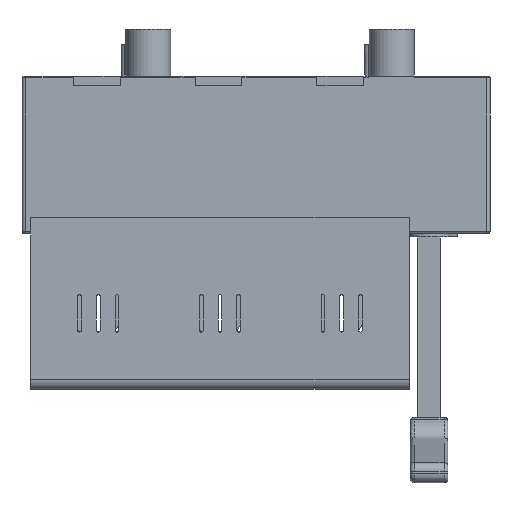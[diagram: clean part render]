
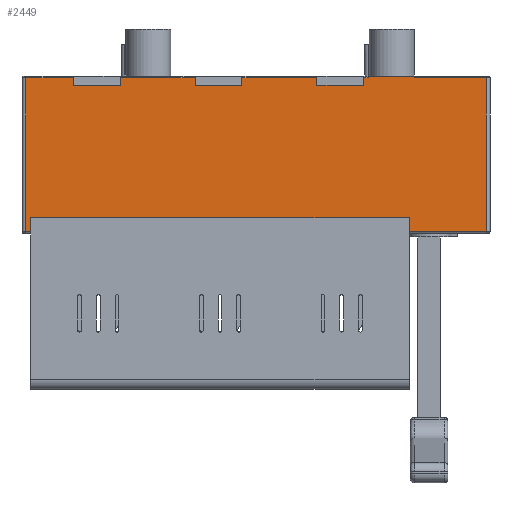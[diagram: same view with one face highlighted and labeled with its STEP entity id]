
A CAD part, front view. The second image highlights one B-rep face of the part: STEP entity #2449.
In plain terms, the highlighted planar face has unit normal (0, -1, 0).
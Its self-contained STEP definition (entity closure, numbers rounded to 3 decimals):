
#2449=ADVANCED_FACE('',(#4024),#3092,.T.);
#3092=PLANE('',#21107);
#4024=FACE_OUTER_BOUND('',#5207,.T.);
#5207=EDGE_LOOP('',(#10568,#10569,#10570,#10571,#10572,#10573,#10574,#10575,
#10576,#10577,#10578,#10579,#10580,#10581,#10582,#10583,#10584,#10585,#10586,
#10587,#10588,#10589));
#10568=ORIENTED_EDGE('',*,*,#15061,.F.);
#10569=ORIENTED_EDGE('',*,*,#15333,.T.);
#10570=ORIENTED_EDGE('',*,*,#15083,.F.);
#10571=ORIENTED_EDGE('',*,*,#15090,.F.);
#10572=ORIENTED_EDGE('',*,*,#15087,.F.);
#10573=ORIENTED_EDGE('',*,*,#15334,.T.);
#10574=ORIENTED_EDGE('',*,*,#15184,.F.);
#10575=ORIENTED_EDGE('',*,*,#15174,.T.);
#10576=ORIENTED_EDGE('',*,*,#15183,.T.);
#10577=ORIENTED_EDGE('',*,*,#15144,.T.);
#10578=ORIENTED_EDGE('',*,*,#15308,.T.);
#10579=ORIENTED_EDGE('',*,*,#15301,.F.);
#10580=ORIENTED_EDGE('',*,*,#15237,.F.);
#10581=ORIENTED_EDGE('',*,*,#15319,.T.);
#10582=ORIENTED_EDGE('',*,*,#15250,.T.);
#10583=ORIENTED_EDGE('',*,*,#15330,.T.);
#10584=ORIENTED_EDGE('',*,*,#15112,.T.);
#10585=ORIENTED_EDGE('',*,*,#15116,.T.);
#10586=ORIENTED_EDGE('',*,*,#15108,.T.);
#10587=ORIENTED_EDGE('',*,*,#15327,.T.);
#10588=ORIENTED_EDGE('',*,*,#15057,.F.);
#10589=ORIENTED_EDGE('',*,*,#15064,.F.);
#12395=VERTEX_POINT('',#31658);
#12396=VERTEX_POINT('',#31660);
#12399=VERTEX_POINT('',#31667);
#12400=VERTEX_POINT('',#31669);
#12415=VERTEX_POINT('',#31712);
#12416=VERTEX_POINT('',#31714);
#12419=VERTEX_POINT('',#31721);
#12420=VERTEX_POINT('',#31723);
#12435=VERTEX_POINT('',#31766);
#12436=VERTEX_POINT('',#31767);
#12438=VERTEX_POINT('',#31774);
#12439=VERTEX_POINT('',#31775);
#12460=VERTEX_POINT('',#31833);
#12461=VERTEX_POINT('',#31853);
#12469=VERTEX_POINT('',#31874);
#12479=VERTEX_POINT('',#31901);
#12483=VERTEX_POINT('',#31943);
#12531=VERTEX_POINT('',#32088);
#12532=VERTEX_POINT('',#32090);
#12539=VERTEX_POINT('',#32120);
#12542=VERTEX_POINT('',#32137);
#12577=VERTEX_POINT('',#32239);
#15057=EDGE_CURVE('',#12395,#12396,#17177,.T.);
#15061=EDGE_CURVE('',#12399,#12400,#17179,.T.);
#15064=EDGE_CURVE('',#12400,#12395,#17182,.T.);
#15083=EDGE_CURVE('',#12415,#12416,#17199,.T.);
#15087=EDGE_CURVE('',#12419,#12420,#17201,.T.);
#15090=EDGE_CURVE('',#12420,#12415,#17204,.T.);
#15108=EDGE_CURVE('',#12435,#12436,#17220,.T.);
#15112=EDGE_CURVE('',#12438,#12439,#17223,.T.);
#15116=EDGE_CURVE('',#12439,#12435,#17226,.T.);
#15144=EDGE_CURVE('',#12460,#12461,#17242,.T.);
#15174=EDGE_CURVE('',#12483,#12479,#17251,.T.);
#15183=EDGE_CURVE('',#12479,#12460,#17256,.T.);
#15184=EDGE_CURVE('',#12483,#12469,#17257,.T.);
#15237=EDGE_CURVE('',#12531,#12532,#17279,.T.);
#15250=EDGE_CURVE('',#12539,#12542,#17286,.T.);
#15301=EDGE_CURVE('',#12532,#12577,#17318,.T.);
#15308=EDGE_CURVE('',#12461,#12577,#17324,.T.);
#15319=EDGE_CURVE('',#12531,#12539,#17334,.T.);
#15327=EDGE_CURVE('',#12436,#12396,#17342,.T.);
#15330=EDGE_CURVE('',#12542,#12438,#17345,.T.);
#15333=EDGE_CURVE('',#12399,#12416,#17348,.T.);
#15334=EDGE_CURVE('',#12419,#12469,#17349,.T.);
#17177=LINE('',#31659,#19188);
#17179=LINE('',#31668,#19190);
#17182=LINE('',#31673,#19193);
#17199=LINE('',#31713,#19210);
#17201=LINE('',#31722,#19212);
#17204=LINE('',#31727,#19215);
#17220=LINE('',#31765,#19231);
#17223=LINE('',#31773,#19234);
#17226=LINE('',#31781,#19237);
#17242=LINE('',#31855,#19253);
#17251=LINE('',#31946,#19262);
#17256=LINE('',#31963,#19267);
#17257=LINE('',#31965,#19268);
#17279=LINE('',#32089,#19290);
#17286=LINE('',#32138,#19297);
#17318=LINE('',#32238,#19329);
#17324=LINE('',#32250,#19335);
#17334=LINE('',#32270,#19345);
#17342=LINE('',#32286,#19353);
#17345=LINE('',#32290,#19356);
#17348=LINE('',#32295,#19359);
#17349=LINE('',#32296,#19360);
#19188=VECTOR('',#26015,1.);
#19190=VECTOR('',#26023,1.);
#19193=VECTOR('',#26028,1.);
#19210=VECTOR('',#26061,1.);
#19212=VECTOR('',#26069,1.);
#19215=VECTOR('',#26074,1.);
#19231=VECTOR('',#26106,1.);
#19234=VECTOR('',#26113,1.);
#19237=VECTOR('',#26120,1.);
#19253=VECTOR('',#26176,1.);
#19262=VECTOR('',#26241,1.);
#19267=VECTOR('',#26264,1.);
#19268=VECTOR('',#26267,1.);
#19290=VECTOR('',#26405,1.);
#19297=VECTOR('',#26426,1.);
#19329=VECTOR('',#26526,1.);
#19335=VECTOR('',#26538,1.);
#19345=VECTOR('',#26560,1.);
#19353=VECTOR('',#26584,1.);
#19356=VECTOR('',#26589,1.);
#19359=VECTOR('',#26596,1.);
#19360=VECTOR('',#26597,1.);
#21107=AXIS2_PLACEMENT_3D('',#32297,#26598,#26599);
#26015=DIRECTION('',(0.,0.,1.));
#26023=DIRECTION('',(0.,0.,-1.));
#26028=DIRECTION('',(1.,0.,0.));
#26061=DIRECTION('',(0.,0.,1.));
#26069=DIRECTION('',(0.,0.,-1.));
#26074=DIRECTION('',(1.,0.,0.));
#26106=DIRECTION('',(0.,0.,1.));
#26113=DIRECTION('',(0.,0.,-1.));
#26120=DIRECTION('',(-1.,0.,0.));
#26176=DIRECTION('',(-1.,0.,0.));
#26241=DIRECTION('',(1.,0.,0.));
#26264=DIRECTION('',(0.,0.,1.));
#26267=DIRECTION('',(0.,0.,1.));
#26405=DIRECTION('',(0.,0.,-1.));
#26426=DIRECTION('',(0.,0.,-1.));
#26526=DIRECTION('',(1.,0.,0.));
#26538=DIRECTION('',(0.,0.,1.));
#26560=DIRECTION('',(-1.,0.,0.));
#26584=DIRECTION('',(-1.,0.,0.));
#26589=DIRECTION('',(-1.,0.,0.));
#26596=DIRECTION('',(-1.,0.,0.));
#26597=DIRECTION('',(-1.,0.,0.));
#26598=DIRECTION('',(0.,-1.,0.));
#26599=DIRECTION('',(1.,0.,0.));
#31658=CARTESIAN_POINT('',(-80.,-52.5,-5.));
#31659=CARTESIAN_POINT('',(-80.,-52.5,4.));
#31660=CARTESIAN_POINT('',(-80.,-52.5,-1.));
#31667=CARTESIAN_POINT('',(-105.,-52.5,-1.));
#31668=CARTESIAN_POINT('',(-105.,-52.5,4.));
#31669=CARTESIAN_POINT('',(-105.,-52.5,-5.));
#31673=CARTESIAN_POINT('',(-12.,-52.5,-5.));
#31712=CARTESIAN_POINT('',(-145.,-52.5,-5.));
#31713=CARTESIAN_POINT('',(-145.,-52.5,4.));
#31714=CARTESIAN_POINT('',(-145.,-52.5,-1.));
#31721=CARTESIAN_POINT('',(-170.,-52.5,-1.));
#31722=CARTESIAN_POINT('',(-170.,-52.5,4.));
#31723=CARTESIAN_POINT('',(-170.,-52.5,-5.));
#31727=CARTESIAN_POINT('',(-12.,-52.5,-5.));
#31765=CARTESIAN_POINT('',(-40.,-52.5,4.));
#31766=CARTESIAN_POINT('',(-40.,-52.5,-5.));
#31767=CARTESIAN_POINT('',(-40.,-52.5,-1.));
#31773=CARTESIAN_POINT('',(-15.,-52.5,4.));
#31774=CARTESIAN_POINT('',(-15.,-52.5,-1.));
#31775=CARTESIAN_POINT('',(-15.,-52.5,-5.));
#31781=CARTESIAN_POINT('',(-12.,-52.5,-5.));
#31833=CARTESIAN_POINT('',(50.5,-52.5,-1.));
#31853=CARTESIAN_POINT('',(12.,-52.5,-1.));
#31855=CARTESIAN_POINT('',(12.,-52.5,-1.));
#31874=CARTESIAN_POINT('',(-195.5,-52.5,-1.));
#31901=CARTESIAN_POINT('',(50.5,-52.5,-83.));
#31943=CARTESIAN_POINT('',(-195.5,-52.5,-83.));
#31946=CARTESIAN_POINT('',(-12.,-52.5,-83.));
#31963=CARTESIAN_POINT('',(50.5,-52.5,-84.));
#31965=CARTESIAN_POINT('',(-195.5,-52.5,-84.));
#32088=CARTESIAN_POINT('',(-12.,-52.5,17.));
#32089=CARTESIAN_POINT('',(-12.,-52.5,25.));
#32090=CARTESIAN_POINT('',(-12.,-52.5,0.));
#32120=CARTESIAN_POINT('',(-12.5,-52.5,17.));
#32137=CARTESIAN_POINT('',(-12.5,-52.5,-1.));
#32138=CARTESIAN_POINT('',(-12.5,-52.5,4.));
#32238=CARTESIAN_POINT('',(50.5,-52.5,0.));
#32239=CARTESIAN_POINT('',(12.,-52.5,0.));
#32250=CARTESIAN_POINT('',(12.,-52.5,4.));
#32270=CARTESIAN_POINT('',(7.5,-52.5,17.));
#32286=CARTESIAN_POINT('',(-195.5,-52.5,-1.));
#32290=CARTESIAN_POINT('',(-195.5,-52.5,-1.));
#32295=CARTESIAN_POINT('',(-195.5,-52.5,-1.));
#32296=CARTESIAN_POINT('',(-195.5,-52.5,-1.));
#32297=CARTESIAN_POINT('',(-12.,-52.5,4.));
